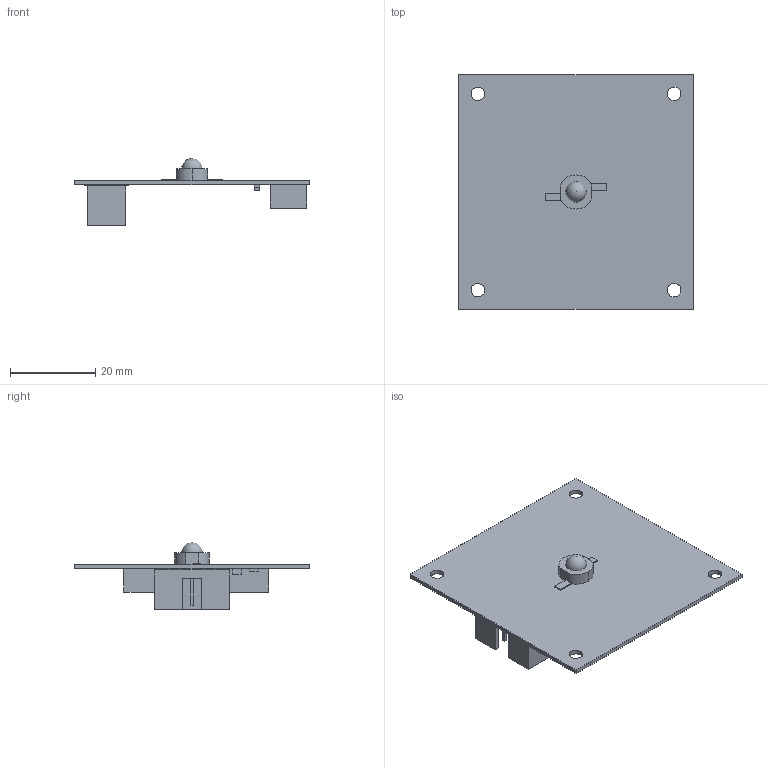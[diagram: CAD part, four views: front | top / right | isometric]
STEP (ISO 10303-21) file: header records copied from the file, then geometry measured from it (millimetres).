
FILE_DESCRIPTION(('Open CASCADE Model'),'2;1');
FILE_NAME('Open CASCADE Shape Model','2026-11-05T16:50:28',('Author'),( 'Open CASCADE'),'Open CASCADE STEP processor 7.9','Open CASCADE 7.9' ,'Unknown');
FILE_SCHEMA(('AUTOMOTIVE_DESIGN { 1 0 10303 214 1 1 1 1 }'));
Length unit declared in the file: millimetre
Products named in the file (15): SDL4-0002_REV_A_mechanical-assembly; PCB_nominal_finished_thickness; D1_body_envelope; D1_optical_dome_approx; D1_terminals; J1_housing; J1_contacts; J2_housing_envelope; J2_contacts; J3_housing_envelope; J3_contacts; C1_envelope; C2_envelope; R1_envelope; REAR_22x22_HEATSINK_CONTACT_AREA
Assembly tree (14 placements, depth 2):
  SDL4-0002_REV_A_mechanical-assembly
    PCB_nominal_finished_thickness
    D1_body_envelope
    D1_optical_dome_approx
    D1_terminals
    J1_housing
    J1_contacts
    J2_housing_envelope
    J2_contacts
    J3_housing_envelope
    J3_contacts
    C1_envelope
    C2_envelope
    R1_envelope
    REAR_22x22_HEATSINK_CONTACT_AREA
Bounding box: 55 x 55 x 15.75 mm (x, y, z)
Volume: 4536.2 mm3; surface area: 10446 mm2
Topology: 42 solids, 42 shells, 274 faces, 565 edges, 376 vertices
Faces by surface type: plane 259, bspline 10, cylinder 4, sphere 1
Entity records: 14995 total; most frequent: CARTESIAN_POINT 2627, DIRECTION 2188, LINE 1601, VECTOR 1601, ORIENTED_EDGE 1128, PCURVE 1128, DEFINITIONAL_REPRESENTATION 1128, EDGE_CURVE 564
